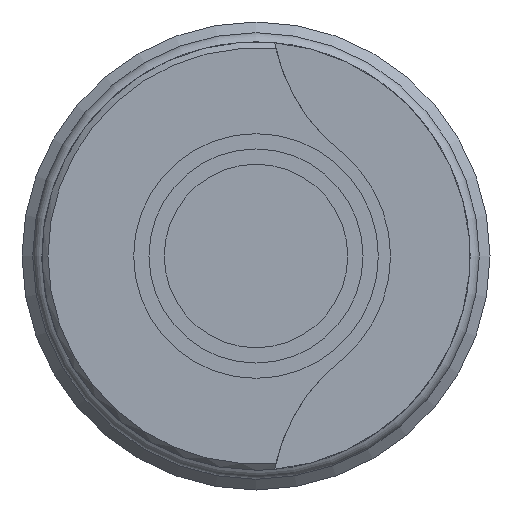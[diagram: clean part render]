
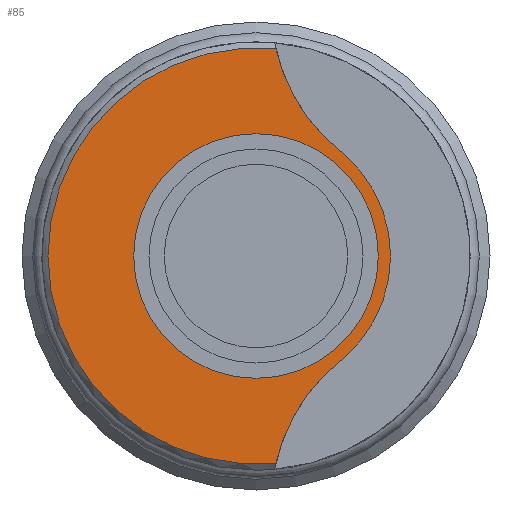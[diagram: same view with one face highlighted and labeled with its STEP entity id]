
A CAD part, left-side view. The second image highlights one B-rep face of the part: STEP entity #85.
In plain terms, the highlighted planar face has unit normal (-1, 0, 0).
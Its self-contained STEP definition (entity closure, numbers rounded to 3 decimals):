
#85 = ADVANCED_FACE( '', ( #205, #206 ), #207, .F. );
#205 = FACE_OUTER_BOUND( '', #378, .T. );
#206 = FACE_BOUND( '', #379, .T. );
#207 = PLANE( '', #380 );
#378 = EDGE_LOOP( '', ( #576, #577, #578, #579 ) );
#379 = EDGE_LOOP( '', ( #580 ) );
#380 = AXIS2_PLACEMENT_3D( '', #581, #582, #583 );
#576 = ORIENTED_EDGE( '', *, *, #903, .F. );
#577 = ORIENTED_EDGE( '', *, *, #927, .T. );
#578 = ORIENTED_EDGE( '', *, *, #928, .F. );
#579 = ORIENTED_EDGE( '', *, *, #929, .T. );
#580 = ORIENTED_EDGE( '', *, *, #930, .T. );
#581 = CARTESIAN_POINT( '', ( 0., 4., 0. ) );
#582 = DIRECTION( '', ( 1., 0., 0. ) );
#583 = DIRECTION( '', ( 0., 0., -1. ) );
#903 = EDGE_CURVE( '', #1048, #1051, #1052, .T. );
#927 = EDGE_CURVE( '', #1048, #1093, #1094, .T. );
#928 = EDGE_CURVE( '', #1095, #1093, #1096, .T. );
#929 = EDGE_CURVE( '', #1095, #1051, #1097, .T. );
#930 = EDGE_CURVE( '', #1098, #1098, #1099, .T. );
#1048 = VERTEX_POINT( '', #1257 );
#1051 = VERTEX_POINT( '', #1263 );
#1052 = CIRCLE( '', #1264, 6.8 );
#1093 = VERTEX_POINT( '', #1327 );
#1094 = CIRCLE( '', #1328, 6. );
#1095 = VERTEX_POINT( '', #1329 );
#1096 = CIRCLE( '', #1330, 4.4 );
#1097 = CIRCLE( '', #1331, 6. );
#1098 = VERTEX_POINT( '', #1332 );
#1099 = CIRCLE( '', #1333, 4. );
#1257 = CARTESIAN_POINT( '', ( 0., -0.652, -6.769 ) );
#1263 = CARTESIAN_POINT( '', ( 0., -0.652, 6.769 ) );
#1264 = AXIS2_PLACEMENT_3D( '', #1521, #1522, #1523 );
#1327 = CARTESIAN_POINT( '', ( 0., -2.893, -3.316 ) );
#1328 = AXIS2_PLACEMENT_3D( '', #1550, #1551, #1552 );
#1329 = CARTESIAN_POINT( '', ( 0., -2.893, 3.316 ) );
#1330 = AXIS2_PLACEMENT_3D( '', #1553, #1554, #1555 );
#1331 = AXIS2_PLACEMENT_3D( '', #1556, #1557, #1558 );
#1332 = CARTESIAN_POINT( '', ( 0., 0., -4. ) );
#1333 = AXIS2_PLACEMENT_3D( '', #1559, #1560, #1561 );
#1521 = CARTESIAN_POINT( '', ( 0., 0., 0. ) );
#1522 = DIRECTION( '', ( 1., 0., 0. ) );
#1523 = DIRECTION( '', ( 0., 0., -1. ) );
#1550 = CARTESIAN_POINT( '', ( 0., -6.5, -8.11 ) );
#1551 = DIRECTION( '', ( 1., 0., 0. ) );
#1552 = DIRECTION( '', ( 0., 0., -1. ) );
#1553 = CARTESIAN_POINT( '', ( 0., 0., 0. ) );
#1554 = DIRECTION( '', ( 1., 0., 0. ) );
#1555 = DIRECTION( '', ( 0., 0., -1. ) );
#1556 = CARTESIAN_POINT( '', ( 0., -6.5, 8.11 ) );
#1557 = DIRECTION( '', ( 1., 0., 0. ) );
#1558 = DIRECTION( '', ( 0., 0., -1. ) );
#1559 = CARTESIAN_POINT( '', ( 0., 0., 0. ) );
#1560 = DIRECTION( '', ( 1., 0., 0. ) );
#1561 = DIRECTION( '', ( 0., 0., -1. ) );
